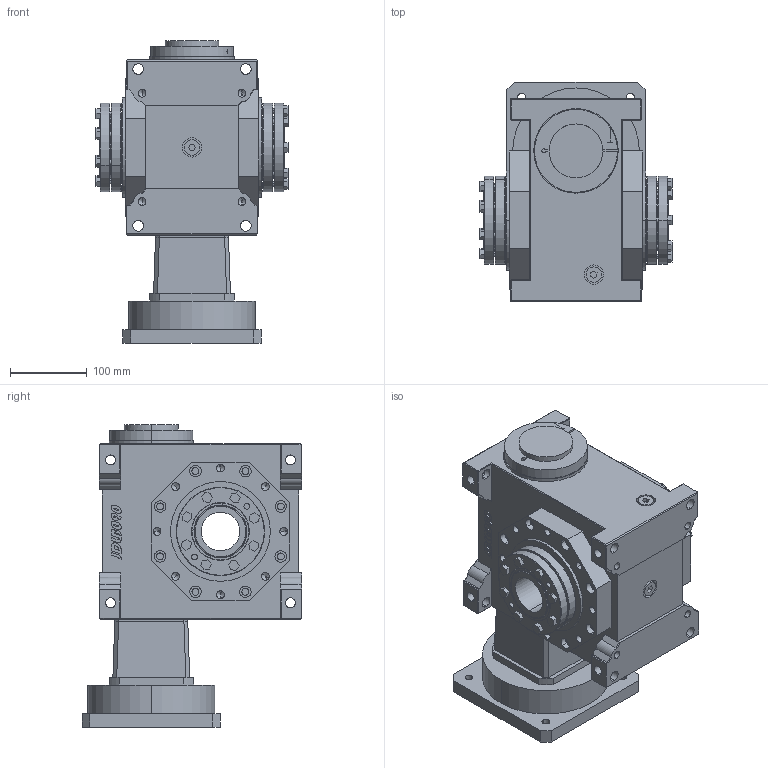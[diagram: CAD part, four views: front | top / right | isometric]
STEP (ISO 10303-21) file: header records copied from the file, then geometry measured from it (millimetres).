
FILE_DESCRIPTION (( 'STEP AP214' ), '1' );
FILE_NAME ('JDLB090-(5~90)-2C-35-114.3-200-M12.STEP', '2022-03-27T01:59:42', ( '' ), ( '' ), 'SwSTEP 2.0', 'SolidWorks 2018', '' );
FILE_SCHEMA (( 'AUTOMOTIVE_DESIGN' ));
Length unit declared in the file: millimetre
Products named in the file (7): JDLB090-C1坶踡攫-68-115-28; JDLB090-CR眊极; JDLB090-2C諾陑粣朴50; JDLB090-ST110输入法兰1; JDLB090-(5~90)-2C-35-114.3-200-M12; 联轴器BD68-73.3-28-35锁紧; ST180-114.3-200-M12侜督楊擘諉諳
Assembly tree (7 placements, depth 2):
  JDLB090-(5~90)-2C-35-114.3-200-M12
    JDLB090-CR眊极
    JDLB090-ST110输入法兰1
    ST180-114.3-200-M12侜督楊擘諉諳
    联轴器BD68-73.3-28-35锁紧
    JDLB090-C1坶踡攫-68-115-28  x2
    JDLB090-2C諾陑粣朴50
Bounding box: 250 x 286 x 394 mm (x, y, z)
Volume: 10846431.7 mm3; surface area: 892740.3 mm2
Topology: 21 solids, 21 shells, 1387 faces, 3329 edges, 2111 vertices
Faces by surface type: plane 685, cylinder 471, cone 104, bspline 75, torus 52
Entity records: 46015 total; most frequent: CARTESIAN_POINT 12191, DIRECTION 6067, ORIENTED_EDGE 5870, EDGE_CURVE 2935, AXIS2_PLACEMENT_3D 2177, VERTEX_POINT 1901, LINE 1713, VECTOR 1713
